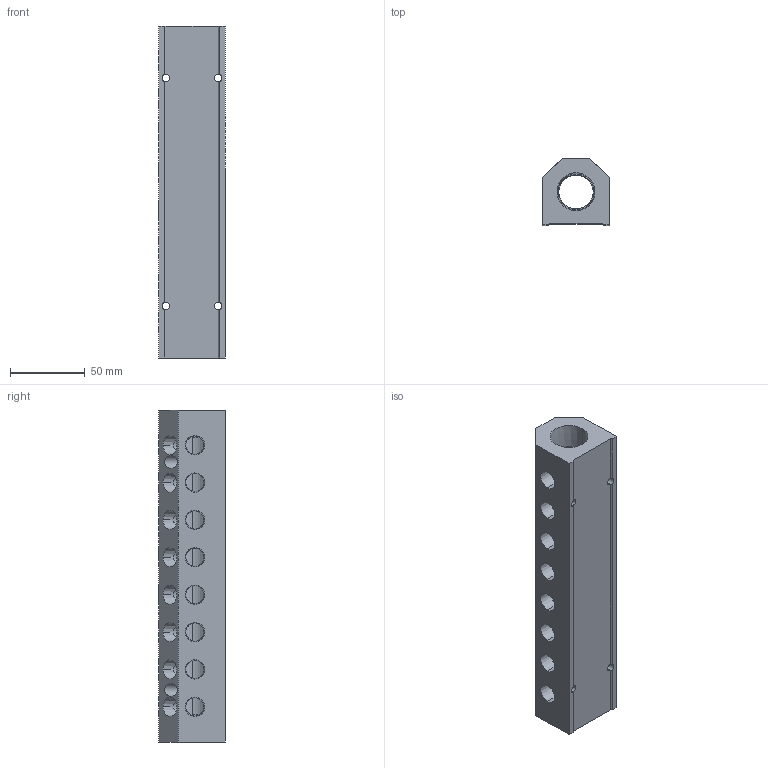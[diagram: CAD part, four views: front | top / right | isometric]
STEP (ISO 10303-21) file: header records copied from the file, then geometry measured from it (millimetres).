
FILE_DESCRIPTION (( 'STEP AP214' ), '1' );
FILE_NAME ('ALM8ABC-N4N12-222B.step', '2022-02-06T14:10:37', ( '' ), ( '' ), 'SwSTEP 2.0', 'SolidWorks 2020', '' );
FILE_SCHEMA (( 'AUTOMOTIVE_DESIGN' ));
Length unit declared in the file: millimetre
Products named in the file (1): ALM8ABC-N4N12-222B
Bounding box: 44.5 x 44.5 x 222 mm (x, y, z)
Volume: 262864.9 mm3; surface area: 61981.7 mm2
Topology: 1 solids, 1 shells, 376 faces, 1079 edges, 716 vertices
Faces by surface type: plane 218, bspline 73, cone 59, cylinder 26
Entity records: 19171 total; most frequent: CARTESIAN_POINT 9329, ORIENTED_EDGE 2158, DIRECTION 1489, EDGE_CURVE 1079, VERTEX_POINT 716, VECTOR 681, LINE 681, EDGE_LOOP 445
